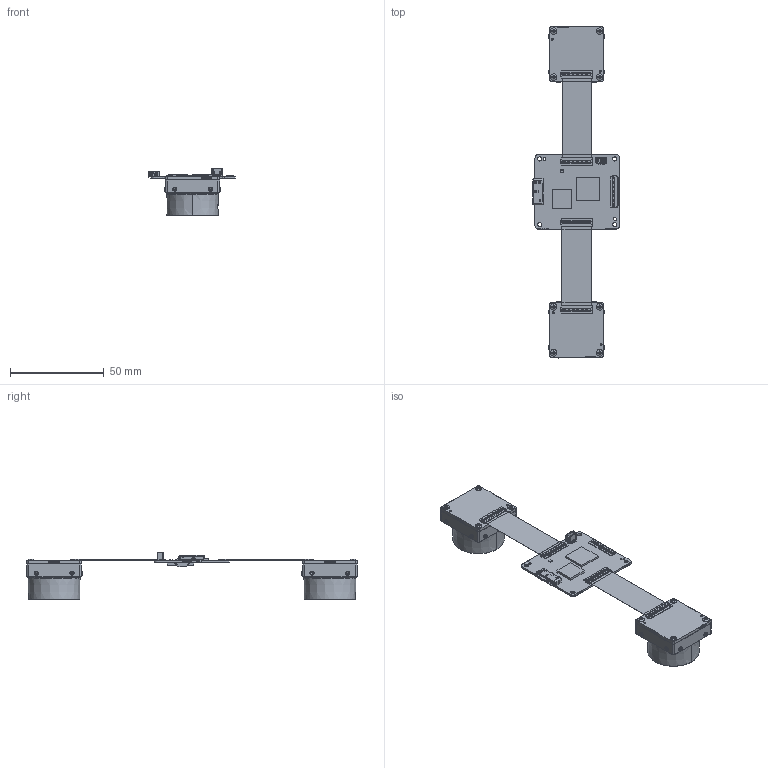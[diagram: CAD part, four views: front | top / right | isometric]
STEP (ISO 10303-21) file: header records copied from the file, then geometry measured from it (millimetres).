
FILE_DESCRIPTION((''),'2;1');
FILE_NAME('0-SHUANGMU_JIXIAN_ALL_ASM','2023-02-22T11:19:10',('zhangfeixiang8'),(''),'CREO PARAMETRIC BY PTC INC, 2020044','CREO PARAMETRIC BY PTC INC, 2020044','');
FILE_SCHEMA(('CONFIG_CONTROL_DESIGN','SHAPE_APPEARANCE_LAYERS_GROUPS'));
Products named in the file (27): MV-20375REV10-202301062057; 101305190; 101303176; 911106735; 101104206; 100600296; 101107317; 101302789; 101102718; MV-20375REV10-202301062057_ASM; FPC_24123_2; PI_24123_2_1; PI_24123_2_2; PI_24123_2_ASM; FPC-MV-24123_ASM_2_ASM; MV-21254REV10-0308-1909--154412; 101302789_1; 101103826_1; MV-21254REV10-0308-1909--154421_ASM; 00-STACKING-CB060-ASM_ASM; DE-13-000397; GLASS_IR_17P4_13; D-01-35-26-0007; 00-MD-CB060-ASM_ASM; 000-CB060-ALL0001_ASM; SC-T1M2X4NL-B; 0-SHUANGMU_JIXIAN_ALL_ASM
Assembly tree (38 placements, depth 4):
  0-SHUANGMU_JIXIAN_ALL_ASM
    MV-20375REV10-202301062057_ASM
      MV-20375REV10-202301062057
      101305190
      101303176
      911106735
      101104206
      100600296
      101107317
      101302789  x3
      101102718
    FPC-MV-24123_ASM_2_ASM  x2
      FPC_24123_2
      PI_24123_2_ASM
        PI_24123_2_1
        PI_24123_2_2
    MV-21254REV10-0308-1909--154421_ASM  x2
      MV-21254REV10-0308-1909--154412
      101302789_1
      101103826_1
    000-CB060-ALL0001_ASM  x2
      00-STACKING-CB060-ASM_ASM
      00-MD-CB060-ASM_ASM
        DE-13-000397
        GLASS_IR_17P4_13
        D-01-35-26-0007
    SC-T1M2X4NL-B  x8
Bounding box: 46.32 x 176.85 x 25.03 mm (x, y, z)
Volume: 19674.1 mm3; surface area: 30938.9 mm2
Topology: 37 solids, 97 shells, 7546 faces, 22943 edges, 15068 vertices
Faces by surface type: plane 5693, cylinder 1384, cone 384, torus 60, bspline 25
Entity records: 157912 total; most frequent: CARTESIAN_POINT 24157, ORIENTED_EDGE 23190, DIRECTION 21529, EDGE_CURVE 11650, VECTOR 9339, LINE 9339, VERTEX_POINT 7668, PRESENTATION_STYLE_ASSIGNMENT 6191
